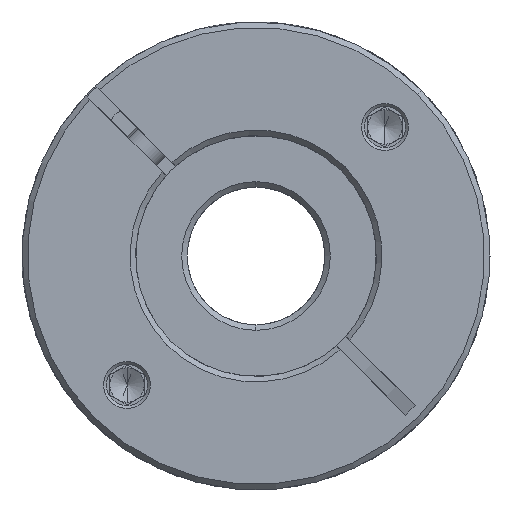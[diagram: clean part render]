
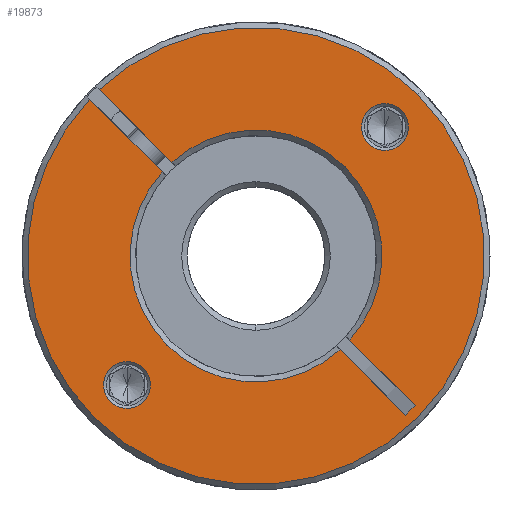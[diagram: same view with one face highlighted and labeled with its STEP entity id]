
A CAD part, front view. The second image highlights one B-rep face of the part: STEP entity #19873.
In plain terms, the highlighted planar face has unit normal (0, -1, 0).
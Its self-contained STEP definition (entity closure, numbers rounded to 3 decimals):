
#151 = EDGE_LOOP ( 'NONE', ( #9541, #1562 ) ) ;
#308 = AXIS2_PLACEMENT_3D ( 'NONE', #20206, #15359, #2196 ) ;
#377 = VERTEX_POINT ( 'NONE', #8925 ) ;
#610 = CARTESIAN_POINT ( 'NONE',  ( -21.473, -67.045, 49.262 ) ) ;
#748 = CARTESIAN_POINT ( 'NONE',  ( -2.028, -67.045, 68.707 ) ) ;
#862 = DIRECTION ( 'NONE',  ( 0.707, 0., 0.707 ) ) ;
#903 = EDGE_CURVE ( 'NONE', #377, #19977, #2132, .T. ) ;
#1562 = ORIENTED_EDGE ( 'NONE', *, *, #20354, .T. ) ;
#1726 = AXIS2_PLACEMENT_3D ( 'NONE', #17908, #6445, #19585 ) ;
#1783 = EDGE_CURVE ( 'NONE', #11349, #17017, #20531, .T. ) ;
#1821 = CIRCLE ( 'NONE', #10720, 33.2 ) ;
#2132 = LINE ( 'NONE', #18379, #11217 ) ;
#2196 = DIRECTION ( 'NONE',  ( 0.707, 0., 0.707 ) ) ;
#2331 = ORIENTED_EDGE ( 'NONE', *, *, #4262, .T. ) ;
#2335 = DIRECTION ( 'NONE',  ( 0.707, 0., -0.707 ) ) ;
#2337 = ORIENTED_EDGE ( 'NONE', *, *, #9935, .T. ) ;
#2757 = CARTESIAN_POINT ( 'NONE',  ( -19.069, -67.045, 51.666 ) ) ;
#3146 = VECTOR ( 'NONE', #2335, 1000. ) ;
#3398 = CARTESIAN_POINT ( 'NONE',  ( -14.949, -67.045, 81.628 ) ) ;
#3438 = EDGE_CURVE ( 'NONE', #14669, #18529, #9096, .T. ) ;
#3844 = CARTESIAN_POINT ( 'NONE',  ( -3.442, -67.045, 67.293 ) ) ;
#3872 = ORIENTED_EDGE ( 'NONE', *, *, #15313, .T. ) ;
#4031 = DIRECTION ( 'NONE',  ( 0., 1., 0. ) ) ;
#4194 = CARTESIAN_POINT ( 'NONE',  ( -2.735, -67.045, 68. ) ) ;
#4262 = EDGE_CURVE ( 'NONE', #19977, #18529, #5942, .T. ) ;
#4374 = VECTOR ( 'NONE', #17457, 1000. ) ;
#4471 = PLANE ( 'NONE',  #9414 ) ;
#4748 = AXIS2_PLACEMENT_3D ( 'NONE', #4194, #19280, #862 ) ;
#5013 = LINE ( 'NONE', #5136, #17746 ) ;
#5106 = DIRECTION ( 'NONE',  ( 0., 1., 0. ) ) ;
#5136 = CARTESIAN_POINT ( 'NONE',  ( -3.442, -67.045, 67.293 ) ) ;
#5192 = CIRCLE ( 'NONE', #14093, 3.4 ) ;
#5242 = AXIS2_PLACEMENT_3D ( 'NONE', #13691, #5422, #14203 ) ;
#5422 = DIRECTION ( 'NONE',  ( 0., 1., 0. ) ) ;
#5623 = CARTESIAN_POINT ( 'NONE',  ( 9.479, -67.045, 54.372 ) ) ;
#5942 = LINE ( 'NONE', #10833, #4374 ) ;
#6124 = VERTEX_POINT ( 'NONE', #19609 ) ;
#6445 = DIRECTION ( 'NONE',  ( 0., 1., 0. ) ) ;
#6481 = CIRCLE ( 'NONE', #5242, 18.3 ) ;
#6518 = DIRECTION ( 'NONE',  ( 0.707, 0., 0.707 ) ) ;
#6861 = ORIENTED_EDGE ( 'NONE', *, *, #903, .T. ) ;
#6922 = DIRECTION ( 'NONE',  ( 0.707, 0., 0.707 ) ) ;
#7043 = DIRECTION ( 'NONE',  ( 0.707, 0., -0.707 ) ) ;
#7159 = FACE_BOUND ( 'NONE', #12727, .T. ) ;
#7676 = DIRECTION ( 'NONE',  ( 0.707, 0., 0.707 ) ) ;
#7836 = DIRECTION ( 'NONE',  ( 0., 1., 0. ) ) ;
#7929 = ORIENTED_EDGE ( 'NONE', *, *, #11781, .T. ) ;
#8254 = DIRECTION ( 'NONE',  ( 0., 1., 0. ) ) ;
#8307 = EDGE_CURVE ( 'NONE', #14053, #16999, #18210, .T. ) ;
#8324 = ORIENTED_EDGE ( 'NONE', *, *, #9794, .T. ) ;
#8384 = DIRECTION ( 'NONE',  ( 0.707, 0., 0.707 ) ) ;
#8420 = EDGE_CURVE ( 'NONE', #6124, #18440, #1821, .T. ) ;
#8461 = DIRECTION ( 'NONE',  ( 0.707, 0., 0.707 ) ) ;
#8637 = CARTESIAN_POINT ( 'NONE',  ( -23.878, -67.045, 46.858 ) ) ;
#8925 = CARTESIAN_POINT ( 'NONE',  ( 10.893, -67.045, 55.786 ) ) ;
#9036 = CARTESIAN_POINT ( 'NONE',  ( 18.988, -67.045, 44.862 ) ) ;
#9096 = LINE ( 'NONE', #3844, #10109 ) ;
#9414 = AXIS2_PLACEMENT_3D ( 'NONE', #9566, #19411, #7676 ) ;
#9526 = VERTEX_POINT ( 'NONE', #21010 ) ;
#9541 = ORIENTED_EDGE ( 'NONE', *, *, #20001, .T. ) ;
#9566 = CARTESIAN_POINT ( 'NONE',  ( -2.735, -67.045, 68. ) ) ;
#9736 = CARTESIAN_POINT ( 'NONE',  ( 10.205, -67.045, 80.94 ) ) ;
#9794 = EDGE_CURVE ( 'NONE', #18440, #12811, #13501, .T. ) ;
#9935 = EDGE_CURVE ( 'NONE', #16999, #14053, #5192, .T. ) ;
#10109 = VECTOR ( 'NONE', #7043, 1000. ) ;
#10289 = CARTESIAN_POINT ( 'NONE',  ( 13.599, -67.045, 84.334 ) ) ;
#10573 = CARTESIAN_POINT ( 'NONE',  ( -26.211, -67.045, 44.524 ) ) ;
#10587 = AXIS2_PLACEMENT_3D ( 'NONE', #16651, #5106, #8384 ) ;
#10677 = CIRCLE ( 'NONE', #1726, 18.3 ) ;
#10720 = AXIS2_PLACEMENT_3D ( 'NONE', #18242, #15071, #8461 ) ;
#10805 = CIRCLE ( 'NONE', #4748, 18.3 ) ;
#10833 = CARTESIAN_POINT ( 'NONE',  ( 18.988, -67.045, 44.862 ) ) ;
#10967 = VERTEX_POINT ( 'NONE', #10289 ) ;
#11217 = VECTOR ( 'NONE', #15002, 1000. ) ;
#11349 = VERTEX_POINT ( 'NONE', #13619 ) ;
#11781 = EDGE_CURVE ( 'NONE', #12664, #377, #10677, .T. ) ;
#11985 = ORIENTED_EDGE ( 'NONE', *, *, #8307, .T. ) ;
#11992 = ORIENTED_EDGE ( 'NONE', *, *, #3438, .F. ) ;
#12314 = CIRCLE ( 'NONE', #14878, 3.4 ) ;
#12369 = ORIENTED_EDGE ( 'NONE', *, *, #13559, .T. ) ;
#12600 = CIRCLE ( 'NONE', #18030, 3.4 ) ;
#12664 = VERTEX_POINT ( 'NONE', #9736 ) ;
#12727 = EDGE_LOOP ( 'NONE', ( #11985, #2337 ) ) ;
#12811 = VERTEX_POINT ( 'NONE', #15264 ) ;
#13501 = CIRCLE ( 'NONE', #308, 33.2 ) ;
#13559 = EDGE_CURVE ( 'NONE', #17017, #12664, #6481, .T. ) ;
#13619 = CARTESIAN_POINT ( 'NONE',  ( -25.493, -67.045, 92.172 ) ) ;
#13691 = CARTESIAN_POINT ( 'NONE',  ( -2.735, -67.045, 68. ) ) ;
#13778 = ORIENTED_EDGE ( 'NONE', *, *, #16973, .F. ) ;
#14053 = VERTEX_POINT ( 'NONE', #2757 ) ;
#14093 = AXIS2_PLACEMENT_3D ( 'NONE', #610, #4031, #18804 ) ;
#14203 = DIRECTION ( 'NONE',  ( 0.707, 0., 0.707 ) ) ;
#14258 = ORIENTED_EDGE ( 'NONE', *, *, #8420, .T. ) ;
#14387 = CARTESIAN_POINT ( 'NONE',  ( 16.003, -67.045, 86.738 ) ) ;
#14605 = DIRECTION ( 'NONE',  ( 0.707, 0., 0.707 ) ) ;
#14669 = VERTEX_POINT ( 'NONE', #5623 ) ;
#14878 = AXIS2_PLACEMENT_3D ( 'NONE', #14387, #7836, #14605 ) ;
#15002 = DIRECTION ( 'NONE',  ( 0.707, 0., -0.707 ) ) ;
#15003 = CARTESIAN_POINT ( 'NONE',  ( 20.402, -67.045, 46.277 ) ) ;
#15071 = DIRECTION ( 'NONE',  ( 0., -1., 0. ) ) ;
#15264 = CARTESIAN_POINT ( 'NONE',  ( 20.741, -67.045, 91.476 ) ) ;
#15313 = EDGE_CURVE ( 'NONE', #14669, #9526, #10805, .T. ) ;
#15359 = DIRECTION ( 'NONE',  ( 0., -1., 0. ) ) ;
#15561 = DIRECTION ( 'NONE',  ( 0., -1., 0. ) ) ;
#16488 = EDGE_CURVE ( 'NONE', #12811, #11349, #20096, .T. ) ;
#16583 = ORIENTED_EDGE ( 'NONE', *, *, #16488, .T. ) ;
#16651 = CARTESIAN_POINT ( 'NONE',  ( -21.473, -67.045, 49.262 ) ) ;
#16869 = CARTESIAN_POINT ( 'NONE',  ( 18.407, -67.045, 89.142 ) ) ;
#16973 = EDGE_CURVE ( 'NONE', #6124, #9526, #5013, .T. ) ;
#16999 = VERTEX_POINT ( 'NONE', #8637 ) ;
#17017 = VERTEX_POINT ( 'NONE', #3398 ) ;
#17457 = DIRECTION ( 'NONE',  ( -0.707, 0., -0.707 ) ) ;
#17746 = VECTOR ( 'NONE', #18542, 1000. ) ;
#17908 = CARTESIAN_POINT ( 'NONE',  ( -2.735, -67.045, 68. ) ) ;
#18030 = AXIS2_PLACEMENT_3D ( 'NONE', #21311, #8254, #6518 ) ;
#18051 = FACE_OUTER_BOUND ( 'NONE', #20680, .T. ) ;
#18210 = CIRCLE ( 'NONE', #10587, 3.4 ) ;
#18242 = CARTESIAN_POINT ( 'NONE',  ( -2.735, -67.045, 68. ) ) ;
#18253 = AXIS2_PLACEMENT_3D ( 'NONE', #20335, #15561, #6922 ) ;
#18379 = CARTESIAN_POINT ( 'NONE',  ( -2.028, -67.045, 68.707 ) ) ;
#18440 = VERTEX_POINT ( 'NONE', #10573 ) ;
#18529 = VERTEX_POINT ( 'NONE', #9036 ) ;
#18542 = DIRECTION ( 'NONE',  ( 0.707, 0., -0.707 ) ) ;
#18547 = FACE_BOUND ( 'NONE', #151, .T. ) ;
#18726 = VERTEX_POINT ( 'NONE', #16869 ) ;
#18804 = DIRECTION ( 'NONE',  ( 0.707, 0., 0.707 ) ) ;
#19280 = DIRECTION ( 'NONE',  ( 0., 1., 0. ) ) ;
#19411 = DIRECTION ( 'NONE',  ( 0., -1., 0. ) ) ;
#19585 = DIRECTION ( 'NONE',  ( 0.707, 0., 0.707 ) ) ;
#19609 = CARTESIAN_POINT ( 'NONE',  ( -26.908, -67.045, 90.758 ) ) ;
#19873 = ADVANCED_FACE ( 'NONE', ( #18547, #7159, #18051 ), #4471, .T. ) ;
#19977 = VERTEX_POINT ( 'NONE', #15003 ) ;
#20001 = EDGE_CURVE ( 'NONE', #18726, #10967, #12600, .T. ) ;
#20096 = CIRCLE ( 'NONE', #18253, 33.2 ) ;
#20206 = CARTESIAN_POINT ( 'NONE',  ( -2.735, -67.045, 68. ) ) ;
#20335 = CARTESIAN_POINT ( 'NONE',  ( -2.735, -67.045, 68. ) ) ;
#20354 = EDGE_CURVE ( 'NONE', #10967, #18726, #12314, .T. ) ;
#20379 = ORIENTED_EDGE ( 'NONE', *, *, #1783, .T. ) ;
#20531 = LINE ( 'NONE', #748, #3146 ) ;
#20680 = EDGE_LOOP ( 'NONE', ( #13778, #14258, #8324, #16583, #20379, #12369, #7929, #6861, #2331, #11992, #3872 ) ) ;
#21010 = CARTESIAN_POINT ( 'NONE',  ( -16.363, -67.045, 80.214 ) ) ;
#21311 = CARTESIAN_POINT ( 'NONE',  ( 16.003, -67.045, 86.738 ) ) ;
